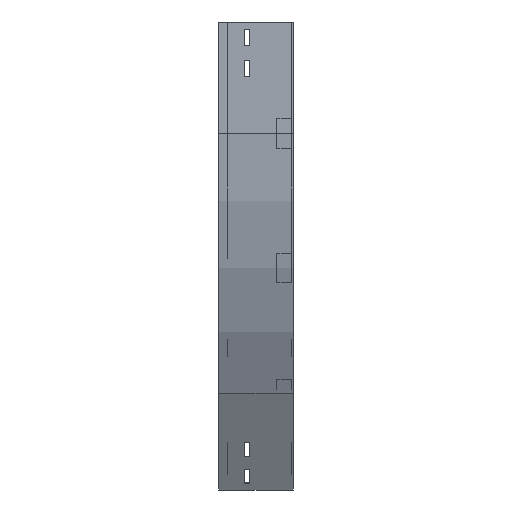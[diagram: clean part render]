
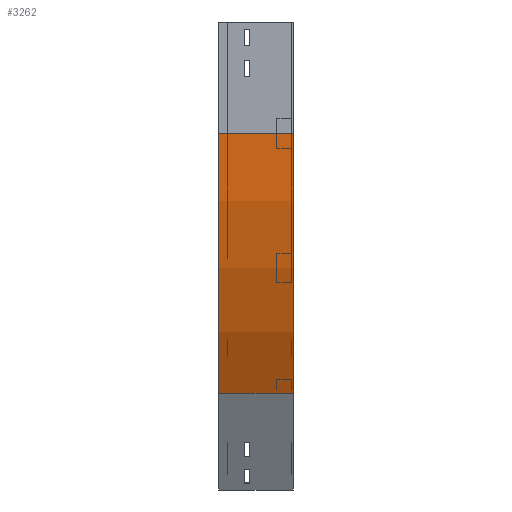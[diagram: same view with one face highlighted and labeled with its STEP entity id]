
A CAD part, left-side view. The second image highlights one B-rep face of the part: STEP entity #3262.
In plain terms, the highlighted cylindrical face has radius 700 mm (diameter 1400 mm), a partial arc.
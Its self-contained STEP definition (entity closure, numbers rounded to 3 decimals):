
#72 = LINE ( 'NONE', #2139, #3453 ) ;
#129 = CARTESIAN_POINT ( 'NONE',  ( 700., 100., -150. ) ) ;
#189 = CARTESIAN_POINT ( 'NONE',  ( 93.782, 100., -500. ) ) ;
#382 = DIRECTION ( 'NONE',  ( -1., 0., 0. ) ) ;
#501 = DIRECTION ( 'NONE',  ( 0., -1., 0. ) ) ;
#514 = CARTESIAN_POINT ( 'NONE',  ( 700., 0., -150. ) ) ;
#530 = EDGE_CURVE ( 'NONE', #3695, #2117, #1979, .T. ) ;
#732 = CIRCLE ( 'NONE', #3766, 700. ) ;
#793 = ORIENTED_EDGE ( 'NONE', *, *, #3838, .F. ) ;
#808 = FACE_OUTER_BOUND ( 'NONE', #2925, .T. ) ;
#914 = CIRCLE ( 'NONE', #3076, 700. ) ;
#922 = VERTEX_POINT ( 'NONE', #1737 ) ;
#1737 = CARTESIAN_POINT ( 'NONE',  ( 0., 0., -150. ) ) ;
#1752 = CARTESIAN_POINT ( 'NONE',  ( 93.782, 0., -500. ) ) ;
#1867 = DIRECTION ( 'NONE',  ( 0., -1., 0. ) ) ;
#1910 = DIRECTION ( 'NONE',  ( 0., -1., 0. ) ) ;
#1979 = LINE ( 'NONE', #2252, #2764 ) ;
#2080 = ORIENTED_EDGE ( 'NONE', *, *, #3804, .F. ) ;
#2117 = VERTEX_POINT ( 'NONE', #1752 ) ;
#2120 = ORIENTED_EDGE ( 'NONE', *, *, #530, .T. ) ;
#2139 = CARTESIAN_POINT ( 'NONE',  ( 0., 0., -150. ) ) ;
#2157 = AXIS2_PLACEMENT_3D ( 'NONE', #514, #3152, #2574 ) ;
#2252 = CARTESIAN_POINT ( 'NONE',  ( 93.782, 0., -500. ) ) ;
#2283 = CARTESIAN_POINT ( 'NONE',  ( 0., 100., -150. ) ) ;
#2451 = DIRECTION ( 'NONE',  ( 0., -1., 0. ) ) ;
#2457 = ORIENTED_EDGE ( 'NONE', *, *, #3548, .T. ) ;
#2574 = DIRECTION ( 'NONE',  ( 0., 0., -1. ) ) ;
#2764 = VECTOR ( 'NONE', #501, 1000. ) ;
#2925 = EDGE_LOOP ( 'NONE', ( #2080, #793, #2457, #2120 ) ) ;
#3076 = AXIS2_PLACEMENT_3D ( 'NONE', #3278, #2451, #382 ) ;
#3152 = DIRECTION ( 'NONE',  ( 0., -1., 0. ) ) ;
#3191 = CYLINDRICAL_SURFACE ( 'NONE', #2157, 700. ) ;
#3262 = ADVANCED_FACE ( 'NONE', ( #808 ), #3191, .T. ) ;
#3278 = CARTESIAN_POINT ( 'NONE',  ( 700., 0., -150. ) ) ;
#3347 = DIRECTION ( 'NONE',  ( -1., 0., 0. ) ) ;
#3453 = VECTOR ( 'NONE', #1867, 1000. ) ;
#3548 = EDGE_CURVE ( 'NONE', #3694, #3695, #732, .T. ) ;
#3694 = VERTEX_POINT ( 'NONE', #2283 ) ;
#3695 = VERTEX_POINT ( 'NONE', #189 ) ;
#3766 = AXIS2_PLACEMENT_3D ( 'NONE', #129, #1910, #3347 ) ;
#3804 = EDGE_CURVE ( 'NONE', #922, #2117, #914, .T. ) ;
#3838 = EDGE_CURVE ( 'NONE', #3694, #922, #72, .T. ) ;
